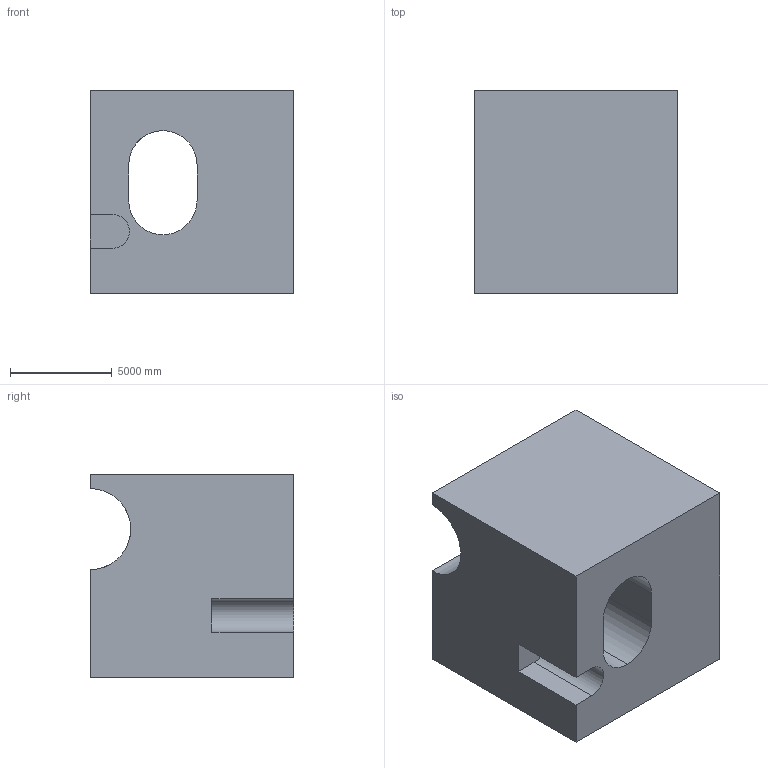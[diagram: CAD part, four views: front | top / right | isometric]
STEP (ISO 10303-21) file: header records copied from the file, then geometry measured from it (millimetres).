
FILE_DESCRIPTION (( 'STEP AP203' ), '1' );
FILE_NAME ('1272.STEP', '2022-08-18T13:30:05', ( 'user' ), ( '' ), 'SwSTEP 2.0', 'SolidWorks 2021', '' );
FILE_SCHEMA (( 'CONFIG_CONTROL_DESIGN' ));
Length unit declared in the file: centimetre
Products named in the file (1): 1272
Bounding box: 10000 x 10000 x 10000 mm (x, y, z)
Volume: 791090503713.5 mm3; surface area: 717649897.2 mm2
Topology: 1 solids, 1 shells, 17 faces, 48 edges, 32 vertices
Faces by surface type: plane 12, cylinder 5
Entity records: 796 total; most frequent: CARTESIAN_POINT 262, ORIENTED_EDGE 96, DIRECTION 94, EDGE_CURVE 48, VECTOR 36, LINE 36, VERTEX_POINT 32, AXIS2_PLACEMENT_3D 29
